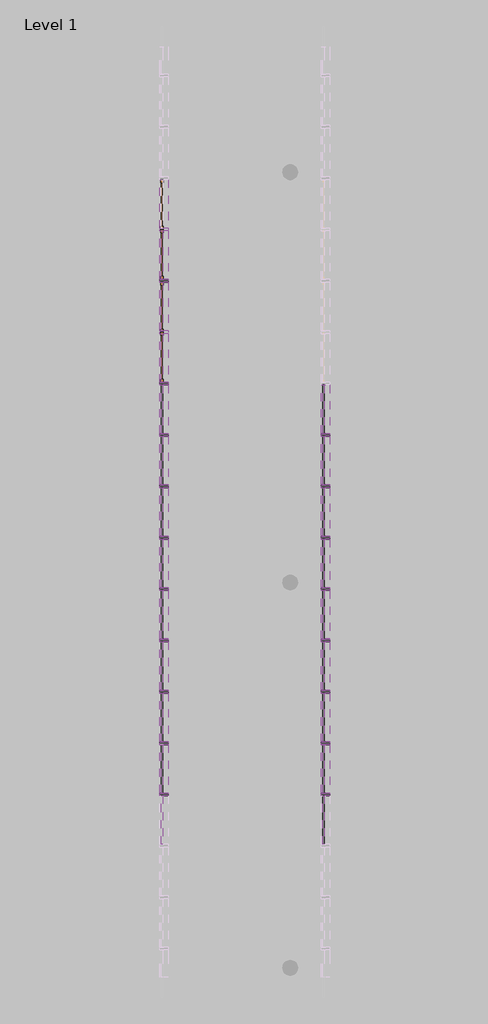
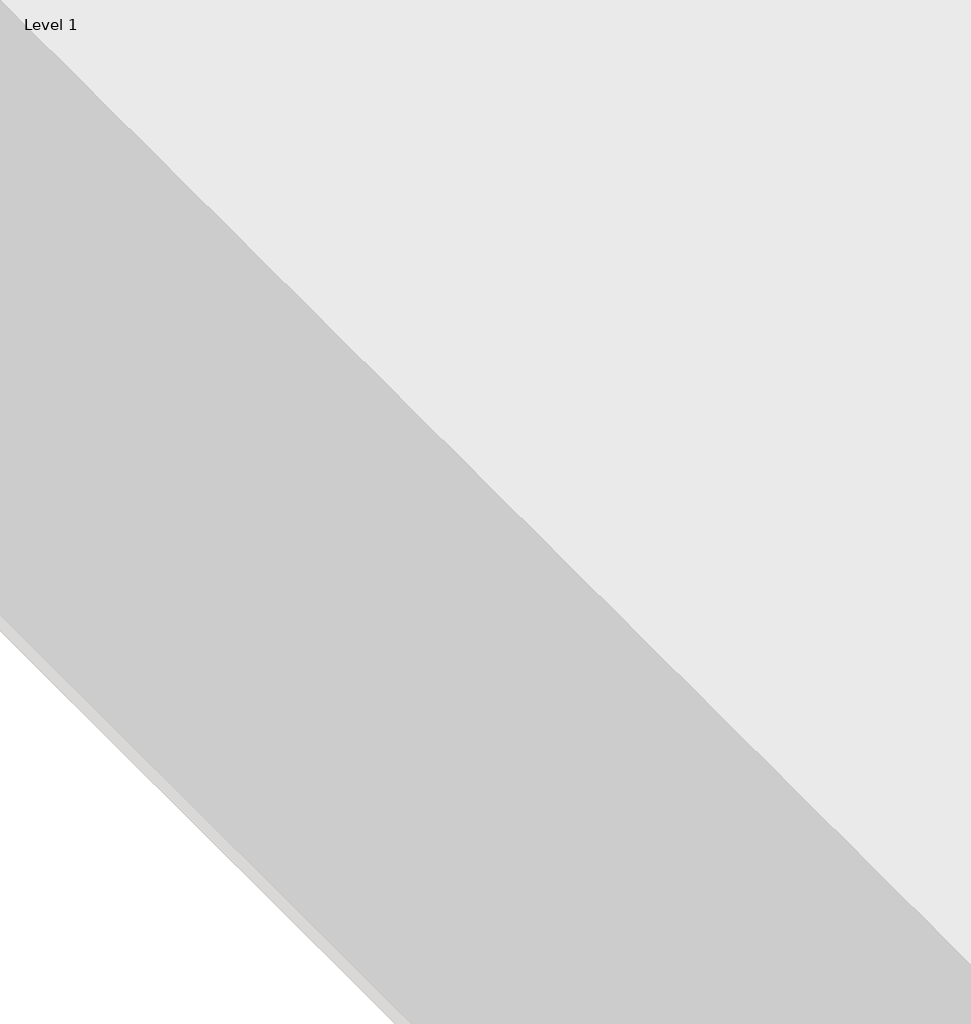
# One storey, part 10 of 27: 93 members, 38 plates, 2 doors.
"""IFC4 building model written with IfcOpenShell, lengths in millimetres."""

from ifc_helpers import new_model, si_unit, origin, place, context, project, spatial, transform, mapped, element, save
from components import m_door_curtain_wall_double_storefront_m_door_curtain_wall_2970ffc3, rectangular_mullion_50mm_x_150mm_d427b131, rectangular_mullion_50mm_x_150mm_d8a63713, rectangular_mullion_50mm_x_150mm_a28728bf, rectangular_mullion_50mm_x_150mm_4471a7bc, rectangular_mullion_50mm_x_150mm_1cdaa0f1, system_panel_glazed_37b7c907, system_panel_glazed_1f05e993

model = new_model("IFC4")

# Units and contexts
model_context = context("Model", 3, world=origin())
ifc_project = project(units=[si_unit("LENGTHUNIT", "METRE", prefix="MILLI")], contexts=[model_context])

# Site, building, storey
site = spatial("IfcSite", under=ifc_project)
building = spatial("IfcBuilding", under=site)
storey = spatial("IfcBuildingStorey", under=building, Name="Level 1", Elevation=0.0)

# Doors
placement = place(None, origin())
m_door_curtain_wall_double_storefront_m_door_curtain_wall_shape = m_door_curtain_wall_double_storefront_m_door_curtain_wall_2970ffc3(model_context)
element("IfcDoor", 1, ObjectType="M_Door-Curtain-Wall-Double-Storefront : M_Door-Curtain-Wall-Double-Storefront", at=placement, inside=storey, context=model_context, shape_type="MappedRepresentation", body=[
    mapped(m_door_curtain_wall_double_storefront_m_door_curtain_wall_shape, transform((-4803.8386635, 16994.8957697, 0.0), x_axis=(0.0, -1.0, 0.0), y_axis=(1.0, 0.0, 0.0), z_axis=(0.0, 0.0, 1.0))),
])
element("IfcDoor", 2, ObjectType="M_Door-Curtain-Wall-Double-Storefront : M_Door-Curtain-Wall-Double-Storefront", at=placement, inside=storey, context=model_context, shape_type="MappedRepresentation", body=[
    mapped(m_door_curtain_wall_double_storefront_m_door_curtain_wall_shape, transform((-4803.8386635, 18836.7905065, 0.0), x_axis=(0.0, -1.0, 0.0), y_axis=(1.0, 0.0, 0.0), z_axis=(0.0, 0.0, 1.0))),
])

# Members
rectangular_mullion_50mm_x_150mm_shape = rectangular_mullion_50mm_x_150mm_d427b131(model_context)
element("IfcMember", 3, ObjectType="Rectangular Mullion : 50mm x 150mm", at=placement, inside=storey, context=model_context, shape_type="MappedRepresentation", body=[
    mapped(rectangular_mullion_50mm_x_150mm_shape, transform((-1903.8386635, 15178.001033, 3550.0), x_axis=(0.0, 0.0, 1.0), y_axis=(-1.0, 0.0, 0.0), z_axis=(0.0, -1.0, 0.0))),
])
element("IfcMember", 4, ObjectType="Rectangular Mullion : 50mm x 150mm", at=placement, inside=storey, context=model_context, shape_type="MappedRepresentation", body=[
    mapped(rectangular_mullion_50mm_x_150mm_shape, transform((-1903.8386635, 14257.0536646, 3550.0), x_axis=(0.0, 0.0, 1.0), y_axis=(-1.0, 0.0, 0.0), z_axis=(0.0, -1.0, 0.0))),
])
element("IfcMember", 5, ObjectType="Rectangular Mullion : 50mm x 150mm", at=placement, inside=storey, context=model_context, shape_type="MappedRepresentation", body=[
    mapped(rectangular_mullion_50mm_x_150mm_shape, transform((-1903.8386635, 13336.1062962, 3550.0), x_axis=(0.0, 0.0, 1.0), y_axis=(-1.0, 0.0, 0.0), z_axis=(0.0, -1.0, 0.0))),
])
element("IfcMember", 6, ObjectType="Rectangular Mullion : 50mm x 150mm", at=placement, inside=storey, context=model_context, shape_type="MappedRepresentation", body=[
    mapped(rectangular_mullion_50mm_x_150mm_shape, transform((-1903.8386635, 12415.1589278, 3550.0), x_axis=(0.0, 0.0, 1.0), y_axis=(-1.0, 0.0, 0.0), z_axis=(0.0, -1.0, 0.0))),
])
element("IfcMember", 7, ObjectType="Rectangular Mullion : 50mm x 150mm", at=placement, inside=storey, context=model_context, shape_type="MappedRepresentation", body=[
    mapped(rectangular_mullion_50mm_x_150mm_shape, transform((-1903.8386635, 11494.2115594, 3550.0), x_axis=(0.0, 0.0, 1.0), y_axis=(-1.0, 0.0, 0.0), z_axis=(0.0, -1.0, 0.0))),
])
element("IfcMember", 8, ObjectType="Rectangular Mullion : 50mm x 150mm", at=placement, inside=storey, context=model_context, shape_type="MappedRepresentation", body=[
    mapped(rectangular_mullion_50mm_x_150mm_shape, transform((-1903.8386635, 10573.264191, 3550.0), x_axis=(0.0, 0.0, 1.0), y_axis=(-1.0, 0.0, 0.0), z_axis=(0.0, -1.0, 0.0))),
])
element("IfcMember", 9, ObjectType="Rectangular Mullion : 50mm x 150mm", at=placement, inside=storey, context=model_context, shape_type="MappedRepresentation", body=[
    mapped(rectangular_mullion_50mm_x_150mm_shape, transform((-1903.8386635, 9652.3168226, 3550.0), x_axis=(0.0, 0.0, 1.0), y_axis=(-1.0, 0.0, 0.0), z_axis=(0.0, -1.0, 0.0))),
])
element("IfcMember", 10, ObjectType="Rectangular Mullion : 50mm x 150mm", at=placement, inside=storey, context=model_context, shape_type="MappedRepresentation", body=[
    mapped(rectangular_mullion_50mm_x_150mm_shape, transform((-1903.8386635, 8731.3694542, 3550.0), x_axis=(0.0, 0.0, 1.0), y_axis=(-1.0, 0.0, 0.0), z_axis=(0.0, -1.0, 0.0))),
])
element("IfcMember", 11, ObjectType="Rectangular Mullion : 50mm x 150mm", at=placement, inside=storey, context=model_context, shape_type="MappedRepresentation", body=[
    mapped(rectangular_mullion_50mm_x_150mm_shape, transform((-4803.8386635, 15178.001033, 3550.0), x_axis=(0.0, 0.0, 1.0), y_axis=(-1.0, 0.0, 0.0), z_axis=(0.0, -1.0, 0.0))),
])
element("IfcMember", 12, ObjectType="Rectangular Mullion : 50mm x 150mm", at=placement, inside=storey, context=model_context, shape_type="MappedRepresentation", body=[
    mapped(rectangular_mullion_50mm_x_150mm_shape, transform((-4803.8386635, 14257.0536646, 3550.0), x_axis=(0.0, 0.0, 1.0), y_axis=(-1.0, 0.0, 0.0), z_axis=(0.0, -1.0, 0.0))),
])
element("IfcMember", 13, ObjectType="Rectangular Mullion : 50mm x 150mm", at=placement, inside=storey, context=model_context, shape_type="MappedRepresentation", body=[
    mapped(rectangular_mullion_50mm_x_150mm_shape, transform((-4803.8386635, 13336.1062962, 3550.0), x_axis=(0.0, 0.0, 1.0), y_axis=(-1.0, 0.0, 0.0), z_axis=(0.0, -1.0, 0.0))),
])
element("IfcMember", 14, ObjectType="Rectangular Mullion : 50mm x 150mm", at=placement, inside=storey, context=model_context, shape_type="MappedRepresentation", body=[
    mapped(rectangular_mullion_50mm_x_150mm_shape, transform((-4803.8386635, 12415.1589278, 3550.0), x_axis=(0.0, 0.0, 1.0), y_axis=(-1.0, 0.0, 0.0), z_axis=(0.0, -1.0, 0.0))),
])
element("IfcMember", 15, ObjectType="Rectangular Mullion : 50mm x 150mm", at=placement, inside=storey, context=model_context, shape_type="MappedRepresentation", body=[
    mapped(rectangular_mullion_50mm_x_150mm_shape, transform((-4803.8386635, 11494.2115594, 3550.0), x_axis=(0.0, 0.0, 1.0), y_axis=(-1.0, 0.0, 0.0), z_axis=(0.0, -1.0, 0.0))),
])
element("IfcMember", 16, ObjectType="Rectangular Mullion : 50mm x 150mm", at=placement, inside=storey, context=model_context, shape_type="MappedRepresentation", body=[
    mapped(rectangular_mullion_50mm_x_150mm_shape, transform((-4803.8386635, 10573.264191, 3550.0), x_axis=(0.0, 0.0, 1.0), y_axis=(-1.0, 0.0, 0.0), z_axis=(0.0, -1.0, 0.0))),
])
element("IfcMember", 17, ObjectType="Rectangular Mullion : 50mm x 150mm", at=placement, inside=storey, context=model_context, shape_type="MappedRepresentation", body=[
    mapped(rectangular_mullion_50mm_x_150mm_shape, transform((-4803.8386635, 9652.3168226, 3550.0), x_axis=(0.0, 0.0, 1.0), y_axis=(-1.0, 0.0, 0.0), z_axis=(0.0, -1.0, 0.0))),
])
element("IfcMember", 18, ObjectType="Rectangular Mullion : 50mm x 150mm", at=placement, inside=storey, context=model_context, shape_type="MappedRepresentation", body=[
    mapped(rectangular_mullion_50mm_x_150mm_shape, transform((-4803.8386635, 16098.9484014, 3550.0), x_axis=(0.0, 0.0, 1.0), y_axis=(-1.0, 0.0, 0.0), z_axis=(0.0, -1.0, 0.0))),
])
element("IfcMember", 19, ObjectType="Rectangular Mullion : 50mm x 150mm", at=placement, inside=storey, context=model_context, shape_type="MappedRepresentation", body=[
    mapped(rectangular_mullion_50mm_x_150mm_shape, transform((-4803.8386635, 17019.8957697, 3550.0), x_axis=(0.0, 0.0, 1.0), y_axis=(-1.0, 0.0, 0.0), z_axis=(0.0, -1.0, 0.0))),
])
element("IfcMember", 20, ObjectType="Rectangular Mullion : 50mm x 150mm", at=placement, inside=storey, context=model_context, shape_type="MappedRepresentation", body=[
    mapped(rectangular_mullion_50mm_x_150mm_shape, transform((-4803.8386635, 17940.8431381, 3550.0), x_axis=(0.0, 0.0, 1.0), y_axis=(-1.0, 0.0, 0.0), z_axis=(0.0, -1.0, 0.0))),
])
element("IfcMember", 21, ObjectType="Rectangular Mullion : 50mm x 150mm", at=placement, inside=storey, context=model_context, shape_type="MappedRepresentation", body=[
    mapped(rectangular_mullion_50mm_x_150mm_shape, transform((-4803.8386635, 18861.7905065, 3550.0), x_axis=(0.0, 0.0, 1.0), y_axis=(-1.0, 0.0, 0.0), z_axis=(0.0, -1.0, 0.0))),
])
element("IfcMember", 22, ObjectType="Rectangular Mullion : 50mm x 150mm", at=placement, inside=storey, context=model_context, shape_type="MappedRepresentation", body=[
    mapped(rectangular_mullion_50mm_x_150mm_shape, transform((-1903.8386635, 15128.001033, 0.0), x_axis=(0.0, 0.0, -1.0), y_axis=(-1.0, 0.0, 0.0), z_axis=(0.0, 1.0, 0.0))),
])
element("IfcMember", 23, ObjectType="Rectangular Mullion : 50mm x 150mm", at=placement, inside=storey, context=model_context, shape_type="MappedRepresentation", body=[
    mapped(rectangular_mullion_50mm_x_150mm_shape, transform((-1903.8386635, 14207.0536646, 0.0), x_axis=(0.0, 0.0, -1.0), y_axis=(-1.0, 0.0, 0.0), z_axis=(0.0, 1.0, 0.0))),
])
element("IfcMember", 24, ObjectType="Rectangular Mullion : 50mm x 150mm", at=placement, inside=storey, context=model_context, shape_type="MappedRepresentation", body=[
    mapped(rectangular_mullion_50mm_x_150mm_shape, transform((-1903.8386635, 13286.1062962, 0.0), x_axis=(0.0, 0.0, -1.0), y_axis=(-1.0, 0.0, 0.0), z_axis=(0.0, 1.0, 0.0))),
])
element("IfcMember", 25, ObjectType="Rectangular Mullion : 50mm x 150mm", at=placement, inside=storey, context=model_context, shape_type="MappedRepresentation", body=[
    mapped(rectangular_mullion_50mm_x_150mm_shape, transform((-1903.8386635, 12365.1589278, 0.0), x_axis=(0.0, 0.0, -1.0), y_axis=(-1.0, 0.0, 0.0), z_axis=(0.0, 1.0, 0.0))),
])
element("IfcMember", 26, ObjectType="Rectangular Mullion : 50mm x 150mm", at=placement, inside=storey, context=model_context, shape_type="MappedRepresentation", body=[
    mapped(rectangular_mullion_50mm_x_150mm_shape, transform((-1903.8386635, 11444.2115594, 0.0), x_axis=(0.0, 0.0, -1.0), y_axis=(-1.0, 0.0, 0.0), z_axis=(0.0, 1.0, 0.0))),
])
element("IfcMember", 27, ObjectType="Rectangular Mullion : 50mm x 150mm", at=placement, inside=storey, context=model_context, shape_type="MappedRepresentation", body=[
    mapped(rectangular_mullion_50mm_x_150mm_shape, transform((-1903.8386635, 10523.264191, 0.0), x_axis=(0.0, 0.0, -1.0), y_axis=(-1.0, 0.0, 0.0), z_axis=(0.0, 1.0, 0.0))),
])
element("IfcMember", 28, ObjectType="Rectangular Mullion : 50mm x 150mm", at=placement, inside=storey, context=model_context, shape_type="MappedRepresentation", body=[
    mapped(rectangular_mullion_50mm_x_150mm_shape, transform((-1903.8386635, 9602.3168226, 0.0), x_axis=(0.0, 0.0, -1.0), y_axis=(-1.0, 0.0, 0.0), z_axis=(0.0, 1.0, 0.0))),
])
element("IfcMember", 29, ObjectType="Rectangular Mullion : 50mm x 150mm", at=placement, inside=storey, context=model_context, shape_type="MappedRepresentation", body=[
    mapped(rectangular_mullion_50mm_x_150mm_shape, transform((-1903.8386635, 8681.3694542, 0.0), x_axis=(0.0, 0.0, -1.0), y_axis=(-1.0, 0.0, 0.0), z_axis=(0.0, 1.0, 0.0))),
])
element("IfcMember", 30, ObjectType="Rectangular Mullion : 50mm x 150mm", at=placement, inside=storey, context=model_context, shape_type="MappedRepresentation", body=[
    mapped(rectangular_mullion_50mm_x_150mm_shape, transform((-4803.8386635, 15128.001033, 0.0), x_axis=(0.0, 0.0, -1.0), y_axis=(-1.0, 0.0, 0.0), z_axis=(0.0, 1.0, 0.0))),
])
element("IfcMember", 31, ObjectType="Rectangular Mullion : 50mm x 150mm", at=placement, inside=storey, context=model_context, shape_type="MappedRepresentation", body=[
    mapped(rectangular_mullion_50mm_x_150mm_shape, transform((-4803.8386635, 14207.0536646, 0.0), x_axis=(0.0, 0.0, -1.0), y_axis=(-1.0, 0.0, 0.0), z_axis=(0.0, 1.0, 0.0))),
])
element("IfcMember", 32, ObjectType="Rectangular Mullion : 50mm x 150mm", at=placement, inside=storey, context=model_context, shape_type="MappedRepresentation", body=[
    mapped(rectangular_mullion_50mm_x_150mm_shape, transform((-4803.8386635, 13286.1062962, 0.0), x_axis=(0.0, 0.0, -1.0), y_axis=(-1.0, 0.0, 0.0), z_axis=(0.0, 1.0, 0.0))),
])
element("IfcMember", 33, ObjectType="Rectangular Mullion : 50mm x 150mm", at=placement, inside=storey, context=model_context, shape_type="MappedRepresentation", body=[
    mapped(rectangular_mullion_50mm_x_150mm_shape, transform((-4803.8386635, 12365.1589278, 0.0), x_axis=(0.0, 0.0, -1.0), y_axis=(-1.0, 0.0, 0.0), z_axis=(0.0, 1.0, 0.0))),
])
element("IfcMember", 34, ObjectType="Rectangular Mullion : 50mm x 150mm", at=placement, inside=storey, context=model_context, shape_type="MappedRepresentation", body=[
    mapped(rectangular_mullion_50mm_x_150mm_shape, transform((-4803.8386635, 11444.2115594, 0.0), x_axis=(0.0, 0.0, -1.0), y_axis=(-1.0, 0.0, 0.0), z_axis=(0.0, 1.0, 0.0))),
])
element("IfcMember", 35, ObjectType="Rectangular Mullion : 50mm x 150mm", at=placement, inside=storey, context=model_context, shape_type="MappedRepresentation", body=[
    mapped(rectangular_mullion_50mm_x_150mm_shape, transform((-4803.8386635, 10523.264191, 0.0), x_axis=(0.0, 0.0, -1.0), y_axis=(-1.0, 0.0, 0.0), z_axis=(0.0, 1.0, 0.0))),
])
element("IfcMember", 36, ObjectType="Rectangular Mullion : 50mm x 150mm", at=placement, inside=storey, context=model_context, shape_type="MappedRepresentation", body=[
    mapped(rectangular_mullion_50mm_x_150mm_shape, transform((-4803.8386635, 9602.3168226, 0.0), x_axis=(0.0, 0.0, -1.0), y_axis=(-1.0, 0.0, 0.0), z_axis=(0.0, 1.0, 0.0))),
])
element("IfcMember", 37, ObjectType="Rectangular Mullion : 50mm x 150mm", at=placement, inside=storey, context=model_context, shape_type="MappedRepresentation", body=[
    mapped(rectangular_mullion_50mm_x_150mm_shape, transform((-4803.8386635, 16048.9484014, 0.0), x_axis=(0.0, 0.0, -1.0), y_axis=(-1.0, 0.0, 0.0), z_axis=(0.0, 1.0, 0.0))),
])
rectangular_mullion_50mm_x_150mm_2_shape = rectangular_mullion_50mm_x_150mm_d8a63713(model_context)
element("IfcMember", 38, ObjectType="Rectangular Mullion : 50mm x 150mm", at=placement, inside=storey, context=model_context, shape_type="MappedRepresentation", body=[
    mapped(rectangular_mullion_50mm_x_150mm_2_shape, transform((-1903.8386635, 15153.001033, 0.0), x_axis=(0.0, -1.0, 0.0), y_axis=(-1.0, 0.0, 0.0), z_axis=(0.0, 0.0, -1.0))),
])
element("IfcMember", 39, ObjectType="Rectangular Mullion : 50mm x 150mm", at=placement, inside=storey, context=model_context, shape_type="MappedRepresentation", body=[
    mapped(rectangular_mullion_50mm_x_150mm_2_shape, transform((-1903.8386635, 14232.0536646, 0.0), x_axis=(0.0, -1.0, 0.0), y_axis=(-1.0, 0.0, 0.0), z_axis=(0.0, 0.0, -1.0))),
])
element("IfcMember", 40, ObjectType="Rectangular Mullion : 50mm x 150mm", at=placement, inside=storey, context=model_context, shape_type="MappedRepresentation", body=[
    mapped(rectangular_mullion_50mm_x_150mm_2_shape, transform((-1903.8386635, 13311.1062962, 0.0), x_axis=(0.0, -1.0, 0.0), y_axis=(-1.0, 0.0, 0.0), z_axis=(0.0, 0.0, -1.0))),
])
element("IfcMember", 41, ObjectType="Rectangular Mullion : 50mm x 150mm", at=placement, inside=storey, context=model_context, shape_type="MappedRepresentation", body=[
    mapped(rectangular_mullion_50mm_x_150mm_2_shape, transform((-1903.8386635, 12390.1589278, 0.0), x_axis=(0.0, -1.0, 0.0), y_axis=(-1.0, 0.0, 0.0), z_axis=(0.0, 0.0, -1.0))),
])
element("IfcMember", 42, ObjectType="Rectangular Mullion : 50mm x 150mm", at=placement, inside=storey, context=model_context, shape_type="MappedRepresentation", body=[
    mapped(rectangular_mullion_50mm_x_150mm_2_shape, transform((-1903.8386635, 11469.2115594, 0.0), x_axis=(0.0, -1.0, 0.0), y_axis=(-1.0, 0.0, 0.0), z_axis=(0.0, 0.0, -1.0))),
])
element("IfcMember", 43, ObjectType="Rectangular Mullion : 50mm x 150mm", at=placement, inside=storey, context=model_context, shape_type="MappedRepresentation", body=[
    mapped(rectangular_mullion_50mm_x_150mm_2_shape, transform((-1903.8386635, 10548.264191, 0.0), x_axis=(0.0, -1.0, 0.0), y_axis=(-1.0, 0.0, 0.0), z_axis=(0.0, 0.0, -1.0))),
])
element("IfcMember", 44, ObjectType="Rectangular Mullion : 50mm x 150mm", at=placement, inside=storey, context=model_context, shape_type="MappedRepresentation", body=[
    mapped(rectangular_mullion_50mm_x_150mm_2_shape, transform((-1903.8386635, 9627.3168226, 0.0), x_axis=(0.0, -1.0, 0.0), y_axis=(-1.0, 0.0, 0.0), z_axis=(0.0, 0.0, -1.0))),
])
element("IfcMember", 45, ObjectType="Rectangular Mullion : 50mm x 150mm", at=placement, inside=storey, context=model_context, shape_type="MappedRepresentation", body=[
    mapped(rectangular_mullion_50mm_x_150mm_2_shape, transform((-1903.8386635, 8706.3694542, 0.0), x_axis=(0.0, -1.0, 0.0), y_axis=(-1.0, 0.0, 0.0), z_axis=(0.0, 0.0, -1.0))),
])
element("IfcMember", 46, ObjectType="Rectangular Mullion : 50mm x 150mm", at=placement, inside=storey, context=model_context, shape_type="MappedRepresentation", body=[
    mapped(rectangular_mullion_50mm_x_150mm_2_shape, transform((-4803.8386635, 15153.001033, 0.0), x_axis=(0.0, -1.0, 0.0), y_axis=(-1.0, 0.0, 0.0), z_axis=(0.0, 0.0, -1.0))),
])
element("IfcMember", 47, ObjectType="Rectangular Mullion : 50mm x 150mm", at=placement, inside=storey, context=model_context, shape_type="MappedRepresentation", body=[
    mapped(rectangular_mullion_50mm_x_150mm_2_shape, transform((-4803.8386635, 14232.0536646, 0.0), x_axis=(0.0, -1.0, 0.0), y_axis=(-1.0, 0.0, 0.0), z_axis=(0.0, 0.0, -1.0))),
])
element("IfcMember", 48, ObjectType="Rectangular Mullion : 50mm x 150mm", at=placement, inside=storey, context=model_context, shape_type="MappedRepresentation", body=[
    mapped(rectangular_mullion_50mm_x_150mm_2_shape, transform((-4803.8386635, 13311.1062962, 0.0), x_axis=(0.0, -1.0, 0.0), y_axis=(-1.0, 0.0, 0.0), z_axis=(0.0, 0.0, -1.0))),
])
element("IfcMember", 49, ObjectType="Rectangular Mullion : 50mm x 150mm", at=placement, inside=storey, context=model_context, shape_type="MappedRepresentation", body=[
    mapped(rectangular_mullion_50mm_x_150mm_2_shape, transform((-4803.8386635, 12390.1589278, 0.0), x_axis=(0.0, -1.0, 0.0), y_axis=(-1.0, 0.0, 0.0), z_axis=(0.0, 0.0, -1.0))),
])
element("IfcMember", 50, ObjectType="Rectangular Mullion : 50mm x 150mm", at=placement, inside=storey, context=model_context, shape_type="MappedRepresentation", body=[
    mapped(rectangular_mullion_50mm_x_150mm_2_shape, transform((-4803.8386635, 11469.2115594, 0.0), x_axis=(0.0, -1.0, 0.0), y_axis=(-1.0, 0.0, 0.0), z_axis=(0.0, 0.0, -1.0))),
])
element("IfcMember", 51, ObjectType="Rectangular Mullion : 50mm x 150mm", at=placement, inside=storey, context=model_context, shape_type="MappedRepresentation", body=[
    mapped(rectangular_mullion_50mm_x_150mm_2_shape, transform((-4803.8386635, 10548.264191, 0.0), x_axis=(0.0, -1.0, 0.0), y_axis=(-1.0, 0.0, 0.0), z_axis=(0.0, 0.0, -1.0))),
])
element("IfcMember", 52, ObjectType="Rectangular Mullion : 50mm x 150mm", at=placement, inside=storey, context=model_context, shape_type="MappedRepresentation", body=[
    mapped(rectangular_mullion_50mm_x_150mm_2_shape, transform((-4803.8386635, 9627.3168226, 0.0), x_axis=(0.0, -1.0, 0.0), y_axis=(-1.0, 0.0, 0.0), z_axis=(0.0, 0.0, -1.0))),
])
element("IfcMember", 53, ObjectType="Rectangular Mullion : 50mm x 150mm", at=placement, inside=storey, context=model_context, shape_type="MappedRepresentation", body=[
    mapped(rectangular_mullion_50mm_x_150mm_2_shape, transform((-4803.8386635, 8706.3694542, 0.0), x_axis=(0.0, -1.0, 0.0), y_axis=(-1.0, 0.0, 0.0), z_axis=(0.0, 0.0, -1.0))),
])
element("IfcMember", 54, ObjectType="Rectangular Mullion : 50mm x 150mm", at=placement, inside=storey, context=model_context, shape_type="MappedRepresentation", body=[
    mapped(rectangular_mullion_50mm_x_150mm_2_shape, transform((-4803.8386635, 16073.9484014, 0.0), x_axis=(0.0, -1.0, 0.0), y_axis=(-1.0, 0.0, 0.0), z_axis=(0.0, 0.0, -1.0))),
])
rectangular_mullion_50mm_x_150mm_3_shape = rectangular_mullion_50mm_x_150mm_a28728bf(model_context)
element("IfcMember", 55, ObjectType="Rectangular Mullion : 50mm x 150mm", at=placement, inside=storey, context=model_context, shape_type="MappedRepresentation", body=[
    mapped(rectangular_mullion_50mm_x_150mm_3_shape, transform((-1903.8386635, 15153.001033, 2135.0), x_axis=(0.0, -1.0, 0.0), y_axis=(-1.0, 0.0, 0.0), z_axis=(0.0, 0.0, -1.0))),
])
element("IfcMember", 56, ObjectType="Rectangular Mullion : 50mm x 150mm", at=placement, inside=storey, context=model_context, shape_type="MappedRepresentation", body=[
    mapped(rectangular_mullion_50mm_x_150mm_3_shape, transform((-1903.8386635, 14232.0536646, 2135.0), x_axis=(0.0, -1.0, 0.0), y_axis=(-1.0, 0.0, 0.0), z_axis=(0.0, 0.0, -1.0))),
])
element("IfcMember", 57, ObjectType="Rectangular Mullion : 50mm x 150mm", at=placement, inside=storey, context=model_context, shape_type="MappedRepresentation", body=[
    mapped(rectangular_mullion_50mm_x_150mm_3_shape, transform((-1903.8386635, 13311.1062962, 2135.0), x_axis=(0.0, -1.0, 0.0), y_axis=(-1.0, 0.0, 0.0), z_axis=(0.0, 0.0, -1.0))),
])
element("IfcMember", 58, ObjectType="Rectangular Mullion : 50mm x 150mm", at=placement, inside=storey, context=model_context, shape_type="MappedRepresentation", body=[
    mapped(rectangular_mullion_50mm_x_150mm_3_shape, transform((-1903.8386635, 12390.1589278, 2135.0), x_axis=(0.0, -1.0, 0.0), y_axis=(-1.0, 0.0, 0.0), z_axis=(0.0, 0.0, -1.0))),
])
element("IfcMember", 59, ObjectType="Rectangular Mullion : 50mm x 150mm", at=placement, inside=storey, context=model_context, shape_type="MappedRepresentation", body=[
    mapped(rectangular_mullion_50mm_x_150mm_3_shape, transform((-1903.8386635, 11469.2115594, 2135.0), x_axis=(0.0, -1.0, 0.0), y_axis=(-1.0, 0.0, 0.0), z_axis=(0.0, 0.0, -1.0))),
])
element("IfcMember", 60, ObjectType="Rectangular Mullion : 50mm x 150mm", at=placement, inside=storey, context=model_context, shape_type="MappedRepresentation", body=[
    mapped(rectangular_mullion_50mm_x_150mm_3_shape, transform((-1903.8386635, 10548.264191, 2135.0), x_axis=(0.0, -1.0, 0.0), y_axis=(-1.0, 0.0, 0.0), z_axis=(0.0, 0.0, -1.0))),
])
element("IfcMember", 61, ObjectType="Rectangular Mullion : 50mm x 150mm", at=placement, inside=storey, context=model_context, shape_type="MappedRepresentation", body=[
    mapped(rectangular_mullion_50mm_x_150mm_3_shape, transform((-1903.8386635, 9627.3168226, 2135.0), x_axis=(0.0, -1.0, 0.0), y_axis=(-1.0, 0.0, 0.0), z_axis=(0.0, 0.0, -1.0))),
])
element("IfcMember", 62, ObjectType="Rectangular Mullion : 50mm x 150mm", at=placement, inside=storey, context=model_context, shape_type="MappedRepresentation", body=[
    mapped(rectangular_mullion_50mm_x_150mm_3_shape, transform((-1903.8386635, 8706.3694542, 2135.0), x_axis=(0.0, -1.0, 0.0), y_axis=(-1.0, 0.0, 0.0), z_axis=(0.0, 0.0, -1.0))),
])
element("IfcMember", 63, ObjectType="Rectangular Mullion : 50mm x 150mm", at=placement, inside=storey, context=model_context, shape_type="MappedRepresentation", body=[
    mapped(rectangular_mullion_50mm_x_150mm_3_shape, transform((-4803.8386635, 15153.001033, 2135.0), x_axis=(0.0, -1.0, 0.0), y_axis=(-1.0, 0.0, 0.0), z_axis=(0.0, 0.0, -1.0))),
])
element("IfcMember", 64, ObjectType="Rectangular Mullion : 50mm x 150mm", at=placement, inside=storey, context=model_context, shape_type="MappedRepresentation", body=[
    mapped(rectangular_mullion_50mm_x_150mm_3_shape, transform((-4803.8386635, 14232.0536646, 2135.0), x_axis=(0.0, -1.0, 0.0), y_axis=(-1.0, 0.0, 0.0), z_axis=(0.0, 0.0, -1.0))),
])
element("IfcMember", 65, ObjectType="Rectangular Mullion : 50mm x 150mm", at=placement, inside=storey, context=model_context, shape_type="MappedRepresentation", body=[
    mapped(rectangular_mullion_50mm_x_150mm_3_shape, transform((-4803.8386635, 13311.1062962, 2135.0), x_axis=(0.0, -1.0, 0.0), y_axis=(-1.0, 0.0, 0.0), z_axis=(0.0, 0.0, -1.0))),
])
element("IfcMember", 66, ObjectType="Rectangular Mullion : 50mm x 150mm", at=placement, inside=storey, context=model_context, shape_type="MappedRepresentation", body=[
    mapped(rectangular_mullion_50mm_x_150mm_3_shape, transform((-4803.8386635, 12390.1589278, 2135.0), x_axis=(0.0, -1.0, 0.0), y_axis=(-1.0, 0.0, 0.0), z_axis=(0.0, 0.0, -1.0))),
])
element("IfcMember", 67, ObjectType="Rectangular Mullion : 50mm x 150mm", at=placement, inside=storey, context=model_context, shape_type="MappedRepresentation", body=[
    mapped(rectangular_mullion_50mm_x_150mm_3_shape, transform((-4803.8386635, 11469.2115594, 2135.0), x_axis=(0.0, -1.0, 0.0), y_axis=(-1.0, 0.0, 0.0), z_axis=(0.0, 0.0, -1.0))),
])
element("IfcMember", 68, ObjectType="Rectangular Mullion : 50mm x 150mm", at=placement, inside=storey, context=model_context, shape_type="MappedRepresentation", body=[
    mapped(rectangular_mullion_50mm_x_150mm_3_shape, transform((-4803.8386635, 10548.264191, 2135.0), x_axis=(0.0, -1.0, 0.0), y_axis=(-1.0, 0.0, 0.0), z_axis=(0.0, 0.0, -1.0))),
])
element("IfcMember", 69, ObjectType="Rectangular Mullion : 50mm x 150mm", at=placement, inside=storey, context=model_context, shape_type="MappedRepresentation", body=[
    mapped(rectangular_mullion_50mm_x_150mm_3_shape, transform((-4803.8386635, 9627.3168226, 2135.0), x_axis=(0.0, -1.0, 0.0), y_axis=(-1.0, 0.0, 0.0), z_axis=(0.0, 0.0, -1.0))),
])
element("IfcMember", 70, ObjectType="Rectangular Mullion : 50mm x 150mm", at=placement, inside=storey, context=model_context, shape_type="MappedRepresentation", body=[
    mapped(rectangular_mullion_50mm_x_150mm_3_shape, transform((-4803.8386635, 8706.3694542, 2135.0), x_axis=(0.0, -1.0, 0.0), y_axis=(-1.0, 0.0, 0.0), z_axis=(0.0, 0.0, -1.0))),
])
element("IfcMember", 71, ObjectType="Rectangular Mullion : 50mm x 150mm", at=placement, inside=storey, context=model_context, shape_type="MappedRepresentation", body=[
    mapped(rectangular_mullion_50mm_x_150mm_3_shape, transform((-4803.8386635, 16073.9484014, 2135.0), x_axis=(0.0, -1.0, 0.0), y_axis=(-1.0, 0.0, 0.0), z_axis=(0.0, 0.0, -1.0))),
])
element("IfcMember", 72, ObjectType="Rectangular Mullion : 50mm x 150mm", at=placement, inside=storey, context=model_context, shape_type="MappedRepresentation", body=[
    mapped(rectangular_mullion_50mm_x_150mm_3_shape, transform((-4803.8386635, 17915.8431381, 2135.0), x_axis=(0.0, -1.0, 0.0), y_axis=(-1.0, 0.0, 0.0), z_axis=(0.0, 0.0, -1.0))),
])
rectangular_mullion_50mm_x_150mm_4_shape = rectangular_mullion_50mm_x_150mm_4471a7bc(model_context)
element("IfcMember", 73, ObjectType="Rectangular Mullion : 50mm x 150mm", at=placement, inside=storey, context=model_context, shape_type="MappedRepresentation", body=[
    mapped(rectangular_mullion_50mm_x_150mm_4_shape, transform((-1903.8386635, 15178.001033, 2135.0), x_axis=(0.0, 0.0, 1.0), y_axis=(-1.0, 0.0, 0.0), z_axis=(0.0, -1.0, 0.0))),
])
element("IfcMember", 74, ObjectType="Rectangular Mullion : 50mm x 150mm", at=placement, inside=storey, context=model_context, shape_type="MappedRepresentation", body=[
    mapped(rectangular_mullion_50mm_x_150mm_4_shape, transform((-1903.8386635, 14257.0536646, 2135.0), x_axis=(0.0, 0.0, 1.0), y_axis=(-1.0, 0.0, 0.0), z_axis=(0.0, -1.0, 0.0))),
])
element("IfcMember", 75, ObjectType="Rectangular Mullion : 50mm x 150mm", at=placement, inside=storey, context=model_context, shape_type="MappedRepresentation", body=[
    mapped(rectangular_mullion_50mm_x_150mm_4_shape, transform((-1903.8386635, 13336.1062962, 2135.0), x_axis=(0.0, 0.0, 1.0), y_axis=(-1.0, 0.0, 0.0), z_axis=(0.0, -1.0, 0.0))),
])
element("IfcMember", 76, ObjectType="Rectangular Mullion : 50mm x 150mm", at=placement, inside=storey, context=model_context, shape_type="MappedRepresentation", body=[
    mapped(rectangular_mullion_50mm_x_150mm_4_shape, transform((-1903.8386635, 12415.1589278, 2135.0), x_axis=(0.0, 0.0, 1.0), y_axis=(-1.0, 0.0, 0.0), z_axis=(0.0, -1.0, 0.0))),
])
element("IfcMember", 77, ObjectType="Rectangular Mullion : 50mm x 150mm", at=placement, inside=storey, context=model_context, shape_type="MappedRepresentation", body=[
    mapped(rectangular_mullion_50mm_x_150mm_4_shape, transform((-1903.8386635, 11494.2115594, 2135.0), x_axis=(0.0, 0.0, 1.0), y_axis=(-1.0, 0.0, 0.0), z_axis=(0.0, -1.0, 0.0))),
])
element("IfcMember", 78, ObjectType="Rectangular Mullion : 50mm x 150mm", at=placement, inside=storey, context=model_context, shape_type="MappedRepresentation", body=[
    mapped(rectangular_mullion_50mm_x_150mm_4_shape, transform((-1903.8386635, 10573.264191, 2135.0), x_axis=(0.0, 0.0, 1.0), y_axis=(-1.0, 0.0, 0.0), z_axis=(0.0, -1.0, 0.0))),
])
element("IfcMember", 79, ObjectType="Rectangular Mullion : 50mm x 150mm", at=placement, inside=storey, context=model_context, shape_type="MappedRepresentation", body=[
    mapped(rectangular_mullion_50mm_x_150mm_4_shape, transform((-1903.8386635, 9652.3168226, 2135.0), x_axis=(0.0, 0.0, 1.0), y_axis=(-1.0, 0.0, 0.0), z_axis=(0.0, -1.0, 0.0))),
])
element("IfcMember", 80, ObjectType="Rectangular Mullion : 50mm x 150mm", at=placement, inside=storey, context=model_context, shape_type="MappedRepresentation", body=[
    mapped(rectangular_mullion_50mm_x_150mm_4_shape, transform((-1903.8386635, 8731.3694542, 2135.0), x_axis=(0.0, 0.0, 1.0), y_axis=(-1.0, 0.0, 0.0), z_axis=(0.0, -1.0, 0.0))),
])
element("IfcMember", 81, ObjectType="Rectangular Mullion : 50mm x 150mm", at=placement, inside=storey, context=model_context, shape_type="MappedRepresentation", body=[
    mapped(rectangular_mullion_50mm_x_150mm_4_shape, transform((-4803.8386635, 18861.7905065, 2135.0), x_axis=(0.0, 0.0, 1.0), y_axis=(-1.0, 0.0, 0.0), z_axis=(0.0, -1.0, 0.0))),
])
element("IfcMember", 82, ObjectType="Rectangular Mullion : 50mm x 150mm", at=placement, inside=storey, context=model_context, shape_type="MappedRepresentation", body=[
    mapped(rectangular_mullion_50mm_x_150mm_4_shape, transform((-4803.8386635, 17940.8431381, 2135.0), x_axis=(0.0, 0.0, 1.0), y_axis=(-1.0, 0.0, 0.0), z_axis=(0.0, -1.0, 0.0))),
])
element("IfcMember", 83, ObjectType="Rectangular Mullion : 50mm x 150mm", at=placement, inside=storey, context=model_context, shape_type="MappedRepresentation", body=[
    mapped(rectangular_mullion_50mm_x_150mm_4_shape, transform((-4803.8386635, 17019.8957697, 2135.0), x_axis=(0.0, 0.0, 1.0), y_axis=(-1.0, 0.0, 0.0), z_axis=(0.0, -1.0, 0.0))),
])
element("IfcMember", 84, ObjectType="Rectangular Mullion : 50mm x 150mm", at=placement, inside=storey, context=model_context, shape_type="MappedRepresentation", body=[
    mapped(rectangular_mullion_50mm_x_150mm_4_shape, transform((-4803.8386635, 16098.9484014, 2135.0), x_axis=(0.0, 0.0, 1.0), y_axis=(-1.0, 0.0, 0.0), z_axis=(0.0, -1.0, 0.0))),
])
element("IfcMember", 85, ObjectType="Rectangular Mullion : 50mm x 150mm", at=placement, inside=storey, context=model_context, shape_type="MappedRepresentation", body=[
    mapped(rectangular_mullion_50mm_x_150mm_4_shape, transform((-4803.8386635, 15178.001033, 2135.0), x_axis=(0.0, 0.0, 1.0), y_axis=(-1.0, 0.0, 0.0), z_axis=(0.0, -1.0, 0.0))),
])
element("IfcMember", 86, ObjectType="Rectangular Mullion : 50mm x 150mm", at=placement, inside=storey, context=model_context, shape_type="MappedRepresentation", body=[
    mapped(rectangular_mullion_50mm_x_150mm_4_shape, transform((-4803.8386635, 14257.0536646, 2135.0), x_axis=(0.0, 0.0, 1.0), y_axis=(-1.0, 0.0, 0.0), z_axis=(0.0, -1.0, 0.0))),
])
element("IfcMember", 87, ObjectType="Rectangular Mullion : 50mm x 150mm", at=placement, inside=storey, context=model_context, shape_type="MappedRepresentation", body=[
    mapped(rectangular_mullion_50mm_x_150mm_4_shape, transform((-4803.8386635, 13336.1062962, 2135.0), x_axis=(0.0, 0.0, 1.0), y_axis=(-1.0, 0.0, 0.0), z_axis=(0.0, -1.0, 0.0))),
])
element("IfcMember", 88, ObjectType="Rectangular Mullion : 50mm x 150mm", at=placement, inside=storey, context=model_context, shape_type="MappedRepresentation", body=[
    mapped(rectangular_mullion_50mm_x_150mm_4_shape, transform((-4803.8386635, 12415.1589278, 2135.0), x_axis=(0.0, 0.0, 1.0), y_axis=(-1.0, 0.0, 0.0), z_axis=(0.0, -1.0, 0.0))),
])
element("IfcMember", 89, ObjectType="Rectangular Mullion : 50mm x 150mm", at=placement, inside=storey, context=model_context, shape_type="MappedRepresentation", body=[
    mapped(rectangular_mullion_50mm_x_150mm_4_shape, transform((-4803.8386635, 11494.2115594, 2135.0), x_axis=(0.0, 0.0, 1.0), y_axis=(-1.0, 0.0, 0.0), z_axis=(0.0, -1.0, 0.0))),
])
element("IfcMember", 90, ObjectType="Rectangular Mullion : 50mm x 150mm", at=placement, inside=storey, context=model_context, shape_type="MappedRepresentation", body=[
    mapped(rectangular_mullion_50mm_x_150mm_4_shape, transform((-4803.8386635, 10573.264191, 2135.0), x_axis=(0.0, 0.0, 1.0), y_axis=(-1.0, 0.0, 0.0), z_axis=(0.0, -1.0, 0.0))),
])
element("IfcMember", 91, ObjectType="Rectangular Mullion : 50mm x 150mm", at=placement, inside=storey, context=model_context, shape_type="MappedRepresentation", body=[
    mapped(rectangular_mullion_50mm_x_150mm_4_shape, transform((-4803.8386635, 9652.3168226, 2135.0), x_axis=(0.0, 0.0, 1.0), y_axis=(-1.0, 0.0, 0.0), z_axis=(0.0, -1.0, 0.0))),
])
element("IfcMember", 92, ObjectType="Rectangular Mullion : 50mm x 150mm", at=placement, inside=storey, context=model_context, shape_type="MappedRepresentation", body=[
    mapped(rectangular_mullion_50mm_x_150mm_4_shape, transform((-4803.8386635, 8731.3694542, 2135.0), x_axis=(0.0, 0.0, 1.0), y_axis=(-1.0, 0.0, 0.0), z_axis=(0.0, -1.0, 0.0))),
])
rectangular_mullion_50mm_x_150mm_5_shape = rectangular_mullion_50mm_x_150mm_1cdaa0f1(model_context)
element("IfcMember", 93, ObjectType="Rectangular Mullion : 50mm x 150mm", at=placement, inside=storey, context=model_context, shape_type="MappedRepresentation", body=[
    mapped(rectangular_mullion_50mm_x_150mm_5_shape, transform((-4803.8386635, 16994.8957697, 2110.0), x_axis=(0.0, -1.0, 0.0), y_axis=(-1.0, 0.0, 0.0), z_axis=(0.0, 0.0, -1.0))),
])
element("IfcMember", 94, ObjectType="Rectangular Mullion : 50mm x 150mm", at=placement, inside=storey, context=model_context, shape_type="MappedRepresentation", body=[
    mapped(rectangular_mullion_50mm_x_150mm_5_shape, transform((-4803.8386635, 18836.7905065, 2110.0), x_axis=(0.0, -1.0, 0.0), y_axis=(-1.0, 0.0, 0.0), z_axis=(0.0, 0.0, -1.0))),
])
element("IfcMember", 95, ObjectType="Rectangular Mullion : 50mm x 150mm", at=placement, inside=storey, context=model_context, shape_type="MappedRepresentation", body=[
    mapped(rectangular_mullion_50mm_x_150mm_2_shape, transform((-4803.8386635, 17915.8431381, 0.0), x_axis=(0.0, -1.0, 0.0), y_axis=(-1.0, 0.0, 0.0), z_axis=(0.0, 0.0, -1.0))),
])

# Plates
system_panel_glazed_shape = system_panel_glazed_37b7c907(model_context)
element("IfcPlate", 96, ObjectType="System Panel : Glazed", at=placement, inside=storey, context=model_context, shape_type="MappedRepresentation", body=[
    mapped(system_panel_glazed_shape, transform((-1903.8386635, 14692.5273488, 50.0), x_axis=(0.0, -1.0, 0.0), y_axis=(1.0, 0.0, 0.0), z_axis=(0.0, 0.0, 1.0))),
])
element("IfcPlate", 97, ObjectType="System Panel : Glazed", at=placement, inside=storey, context=model_context, shape_type="MappedRepresentation", body=[
    mapped(system_panel_glazed_shape, transform((-1903.8386635, 13771.5799804, 50.0), x_axis=(0.0, -1.0, 0.0), y_axis=(1.0, 0.0, 0.0), z_axis=(0.0, 0.0, 1.0))),
])
element("IfcPlate", 98, ObjectType="System Panel : Glazed", at=placement, inside=storey, context=model_context, shape_type="MappedRepresentation", body=[
    mapped(system_panel_glazed_shape, transform((-1903.8386635, 12850.632612, 50.0), x_axis=(0.0, -1.0, 0.0), y_axis=(1.0, 0.0, 0.0), z_axis=(0.0, 0.0, 1.0))),
])
element("IfcPlate", 99, ObjectType="System Panel : Glazed", at=placement, inside=storey, context=model_context, shape_type="MappedRepresentation", body=[
    mapped(system_panel_glazed_shape, transform((-1903.8386635, 11929.6852436, 50.0), x_axis=(0.0, -1.0, 0.0), y_axis=(1.0, 0.0, 0.0), z_axis=(0.0, 0.0, 1.0))),
])
element("IfcPlate", 100, ObjectType="System Panel : Glazed", at=placement, inside=storey, context=model_context, shape_type="MappedRepresentation", body=[
    mapped(system_panel_glazed_shape, transform((-1903.8386635, 11008.7378752, 50.0), x_axis=(0.0, -1.0, 0.0), y_axis=(1.0, 0.0, 0.0), z_axis=(0.0, 0.0, 1.0))),
])
element("IfcPlate", 101, ObjectType="System Panel : Glazed", at=placement, inside=storey, context=model_context, shape_type="MappedRepresentation", body=[
    mapped(system_panel_glazed_shape, transform((-1903.8386635, 10087.7905068, 50.0), x_axis=(0.0, -1.0, 0.0), y_axis=(1.0, 0.0, 0.0), z_axis=(0.0, 0.0, 1.0))),
])
element("IfcPlate", 102, ObjectType="System Panel : Glazed", at=placement, inside=storey, context=model_context, shape_type="MappedRepresentation", body=[
    mapped(system_panel_glazed_shape, transform((-1903.8386635, 9166.8431384, 50.0), x_axis=(0.0, -1.0, 0.0), y_axis=(1.0, 0.0, 0.0), z_axis=(0.0, 0.0, 1.0))),
])
element("IfcPlate", 103, ObjectType="System Panel : Glazed", at=placement, inside=storey, context=model_context, shape_type="MappedRepresentation", body=[
    mapped(system_panel_glazed_shape, transform((-1903.8386635, 8245.8957701, 50.0), x_axis=(0.0, -1.0, 0.0), y_axis=(1.0, 0.0, 0.0), z_axis=(0.0, 0.0, 1.0))),
])
element("IfcPlate", 104, ObjectType="System Panel : Glazed", at=placement, inside=storey, context=model_context, shape_type="MappedRepresentation", body=[
    mapped(system_panel_glazed_shape, transform((-1903.8386635, 15613.4747172, 50.0), x_axis=(0.0, -1.0, 0.0), y_axis=(1.0, 0.0, 0.0), z_axis=(0.0, 0.0, 1.0))),
])
element("IfcPlate", 105, ObjectType="System Panel : Glazed", at=placement, inside=storey, context=model_context, shape_type="MappedRepresentation", body=[
    mapped(system_panel_glazed_shape, transform((-4803.8386635, 14692.5273488, 50.0), x_axis=(0.0, -1.0, 0.0), y_axis=(1.0, 0.0, 0.0), z_axis=(0.0, 0.0, 1.0))),
])
element("IfcPlate", 106, ObjectType="System Panel : Glazed", at=placement, inside=storey, context=model_context, shape_type="MappedRepresentation", body=[
    mapped(system_panel_glazed_shape, transform((-4803.8386635, 13771.5799804, 50.0), x_axis=(0.0, -1.0, 0.0), y_axis=(1.0, 0.0, 0.0), z_axis=(0.0, 0.0, 1.0))),
])
element("IfcPlate", 107, ObjectType="System Panel : Glazed", at=placement, inside=storey, context=model_context, shape_type="MappedRepresentation", body=[
    mapped(system_panel_glazed_shape, transform((-4803.8386635, 12850.632612, 50.0), x_axis=(0.0, -1.0, 0.0), y_axis=(1.0, 0.0, 0.0), z_axis=(0.0, 0.0, 1.0))),
])
element("IfcPlate", 108, ObjectType="System Panel : Glazed", at=placement, inside=storey, context=model_context, shape_type="MappedRepresentation", body=[
    mapped(system_panel_glazed_shape, transform((-4803.8386635, 11929.6852436, 50.0), x_axis=(0.0, -1.0, 0.0), y_axis=(1.0, 0.0, 0.0), z_axis=(0.0, 0.0, 1.0))),
])
element("IfcPlate", 109, ObjectType="System Panel : Glazed", at=placement, inside=storey, context=model_context, shape_type="MappedRepresentation", body=[
    mapped(system_panel_glazed_shape, transform((-4803.8386635, 11008.7378752, 50.0), x_axis=(0.0, -1.0, 0.0), y_axis=(1.0, 0.0, 0.0), z_axis=(0.0, 0.0, 1.0))),
])
element("IfcPlate", 110, ObjectType="System Panel : Glazed", at=placement, inside=storey, context=model_context, shape_type="MappedRepresentation", body=[
    mapped(system_panel_glazed_shape, transform((-4803.8386635, 10087.7905068, 50.0), x_axis=(0.0, -1.0, 0.0), y_axis=(1.0, 0.0, 0.0), z_axis=(0.0, 0.0, 1.0))),
])
element("IfcPlate", 111, ObjectType="System Panel : Glazed", at=placement, inside=storey, context=model_context, shape_type="MappedRepresentation", body=[
    mapped(system_panel_glazed_shape, transform((-4803.8386635, 9166.8431384, 50.0), x_axis=(0.0, -1.0, 0.0), y_axis=(1.0, 0.0, 0.0), z_axis=(0.0, 0.0, 1.0))),
])
element("IfcPlate", 112, ObjectType="System Panel : Glazed", at=placement, inside=storey, context=model_context, shape_type="MappedRepresentation", body=[
    mapped(system_panel_glazed_shape, transform((-4803.8386635, 15613.4747172, 50.0), x_axis=(0.0, -1.0, 0.0), y_axis=(1.0, 0.0, 0.0), z_axis=(0.0, 0.0, 1.0))),
])
system_panel_glazed_2_shape = system_panel_glazed_1f05e993(model_context)
element("IfcPlate", 113, ObjectType="System Panel : Glazed", at=placement, inside=storey, context=model_context, shape_type="MappedRepresentation", body=[
    mapped(system_panel_glazed_2_shape, transform((-1903.8386635, 15613.4747172, 2160.0), x_axis=(0.0, -1.0, 0.0), y_axis=(1.0, 0.0, 0.0), z_axis=(0.0, 0.0, 1.0))),
])
element("IfcPlate", 114, ObjectType="System Panel : Glazed", at=placement, inside=storey, context=model_context, shape_type="MappedRepresentation", body=[
    mapped(system_panel_glazed_2_shape, transform((-1903.8386635, 14692.5273488, 2160.0), x_axis=(0.0, -1.0, 0.0), y_axis=(1.0, 0.0, 0.0), z_axis=(0.0, 0.0, 1.0))),
])
element("IfcPlate", 115, ObjectType="System Panel : Glazed", at=placement, inside=storey, context=model_context, shape_type="MappedRepresentation", body=[
    mapped(system_panel_glazed_2_shape, transform((-1903.8386635, 13771.5799804, 2160.0), x_axis=(0.0, -1.0, 0.0), y_axis=(1.0, 0.0, 0.0), z_axis=(0.0, 0.0, 1.0))),
])
element("IfcPlate", 116, ObjectType="System Panel : Glazed", at=placement, inside=storey, context=model_context, shape_type="MappedRepresentation", body=[
    mapped(system_panel_glazed_2_shape, transform((-1903.8386635, 12850.632612, 2160.0), x_axis=(0.0, -1.0, 0.0), y_axis=(1.0, 0.0, 0.0), z_axis=(0.0, 0.0, 1.0))),
])
element("IfcPlate", 117, ObjectType="System Panel : Glazed", at=placement, inside=storey, context=model_context, shape_type="MappedRepresentation", body=[
    mapped(system_panel_glazed_2_shape, transform((-1903.8386635, 11929.6852436, 2160.0), x_axis=(0.0, -1.0, 0.0), y_axis=(1.0, 0.0, 0.0), z_axis=(0.0, 0.0, 1.0))),
])
element("IfcPlate", 118, ObjectType="System Panel : Glazed", at=placement, inside=storey, context=model_context, shape_type="MappedRepresentation", body=[
    mapped(system_panel_glazed_2_shape, transform((-1903.8386635, 11008.7378752, 2160.0), x_axis=(0.0, -1.0, 0.0), y_axis=(1.0, 0.0, 0.0), z_axis=(0.0, 0.0, 1.0))),
])
element("IfcPlate", 119, ObjectType="System Panel : Glazed", at=placement, inside=storey, context=model_context, shape_type="MappedRepresentation", body=[
    mapped(system_panel_glazed_2_shape, transform((-1903.8386635, 10087.7905068, 2160.0), x_axis=(0.0, -1.0, 0.0), y_axis=(1.0, 0.0, 0.0), z_axis=(0.0, 0.0, 1.0))),
])
element("IfcPlate", 120, ObjectType="System Panel : Glazed", at=placement, inside=storey, context=model_context, shape_type="MappedRepresentation", body=[
    mapped(system_panel_glazed_2_shape, transform((-1903.8386635, 9166.8431384, 2160.0), x_axis=(0.0, -1.0, 0.0), y_axis=(1.0, 0.0, 0.0), z_axis=(0.0, 0.0, 1.0))),
])
element("IfcPlate", 121, ObjectType="System Panel : Glazed", at=placement, inside=storey, context=model_context, shape_type="MappedRepresentation", body=[
    mapped(system_panel_glazed_2_shape, transform((-1903.8386635, 8245.8957701, 2160.0), x_axis=(0.0, -1.0, 0.0), y_axis=(1.0, 0.0, 0.0), z_axis=(0.0, 0.0, 1.0))),
])
element("IfcPlate", 122, ObjectType="System Panel : Glazed", at=placement, inside=storey, context=model_context, shape_type="MappedRepresentation", body=[
    mapped(system_panel_glazed_2_shape, transform((-4803.8386635, 18376.3168223, 2160.0), x_axis=(0.0, -1.0, 0.0), y_axis=(1.0, 0.0, 0.0), z_axis=(0.0, 0.0, 1.0))),
])
element("IfcPlate", 123, ObjectType="System Panel : Glazed", at=placement, inside=storey, context=model_context, shape_type="MappedRepresentation", body=[
    mapped(system_panel_glazed_2_shape, transform((-4803.8386635, 17455.3694539, 2160.0), x_axis=(0.0, -1.0, 0.0), y_axis=(1.0, 0.0, 0.0), z_axis=(0.0, 0.0, 1.0))),
])
element("IfcPlate", 124, ObjectType="System Panel : Glazed", at=placement, inside=storey, context=model_context, shape_type="MappedRepresentation", body=[
    mapped(system_panel_glazed_2_shape, transform((-4803.8386635, 16534.4220856, 2160.0), x_axis=(0.0, -1.0, 0.0), y_axis=(1.0, 0.0, 0.0), z_axis=(0.0, 0.0, 1.0))),
])
element("IfcPlate", 125, ObjectType="System Panel : Glazed", at=placement, inside=storey, context=model_context, shape_type="MappedRepresentation", body=[
    mapped(system_panel_glazed_2_shape, transform((-4803.8386635, 15613.4747172, 2160.0), x_axis=(0.0, -1.0, 0.0), y_axis=(1.0, 0.0, 0.0), z_axis=(0.0, 0.0, 1.0))),
])
element("IfcPlate", 126, ObjectType="System Panel : Glazed", at=placement, inside=storey, context=model_context, shape_type="MappedRepresentation", body=[
    mapped(system_panel_glazed_2_shape, transform((-4803.8386635, 14692.5273488, 2160.0), x_axis=(0.0, -1.0, 0.0), y_axis=(1.0, 0.0, 0.0), z_axis=(0.0, 0.0, 1.0))),
])
element("IfcPlate", 127, ObjectType="System Panel : Glazed", at=placement, inside=storey, context=model_context, shape_type="MappedRepresentation", body=[
    mapped(system_panel_glazed_2_shape, transform((-4803.8386635, 13771.5799804, 2160.0), x_axis=(0.0, -1.0, 0.0), y_axis=(1.0, 0.0, 0.0), z_axis=(0.0, 0.0, 1.0))),
])
element("IfcPlate", 128, ObjectType="System Panel : Glazed", at=placement, inside=storey, context=model_context, shape_type="MappedRepresentation", body=[
    mapped(system_panel_glazed_2_shape, transform((-4803.8386635, 12850.632612, 2160.0), x_axis=(0.0, -1.0, 0.0), y_axis=(1.0, 0.0, 0.0), z_axis=(0.0, 0.0, 1.0))),
])
element("IfcPlate", 129, ObjectType="System Panel : Glazed", at=placement, inside=storey, context=model_context, shape_type="MappedRepresentation", body=[
    mapped(system_panel_glazed_2_shape, transform((-4803.8386635, 11929.6852436, 2160.0), x_axis=(0.0, -1.0, 0.0), y_axis=(1.0, 0.0, 0.0), z_axis=(0.0, 0.0, 1.0))),
])
element("IfcPlate", 130, ObjectType="System Panel : Glazed", at=placement, inside=storey, context=model_context, shape_type="MappedRepresentation", body=[
    mapped(system_panel_glazed_2_shape, transform((-4803.8386635, 11008.7378752, 2160.0), x_axis=(0.0, -1.0, 0.0), y_axis=(1.0, 0.0, 0.0), z_axis=(0.0, 0.0, 1.0))),
])
element("IfcPlate", 131, ObjectType="System Panel : Glazed", at=placement, inside=storey, context=model_context, shape_type="MappedRepresentation", body=[
    mapped(system_panel_glazed_2_shape, transform((-4803.8386635, 10087.7905068, 2160.0), x_axis=(0.0, -1.0, 0.0), y_axis=(1.0, 0.0, 0.0), z_axis=(0.0, 0.0, 1.0))),
])
element("IfcPlate", 132, ObjectType="System Panel : Glazed", at=placement, inside=storey, context=model_context, shape_type="MappedRepresentation", body=[
    mapped(system_panel_glazed_2_shape, transform((-4803.8386635, 9166.8431384, 2160.0), x_axis=(0.0, -1.0, 0.0), y_axis=(1.0, 0.0, 0.0), z_axis=(0.0, 0.0, 1.0))),
])
element("IfcPlate", 133, ObjectType="System Panel : Glazed", at=placement, inside=storey, context=model_context, shape_type="MappedRepresentation", body=[
    mapped(system_panel_glazed_2_shape, transform((-4803.8386635, 8245.8957701, 2160.0), x_axis=(0.0, -1.0, 0.0), y_axis=(1.0, 0.0, 0.0), z_axis=(0.0, 0.0, 1.0))),
])

save(model, "model.ifc")
